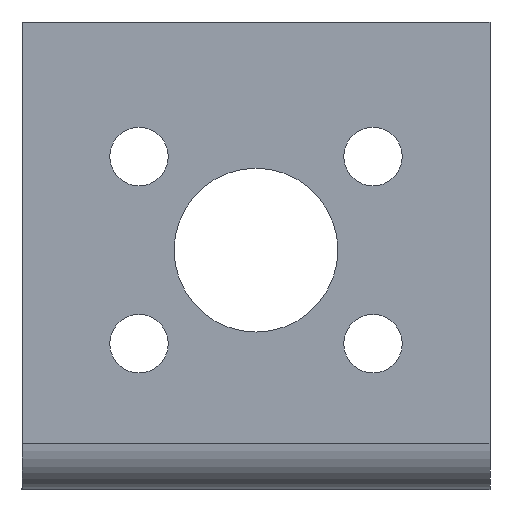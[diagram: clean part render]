
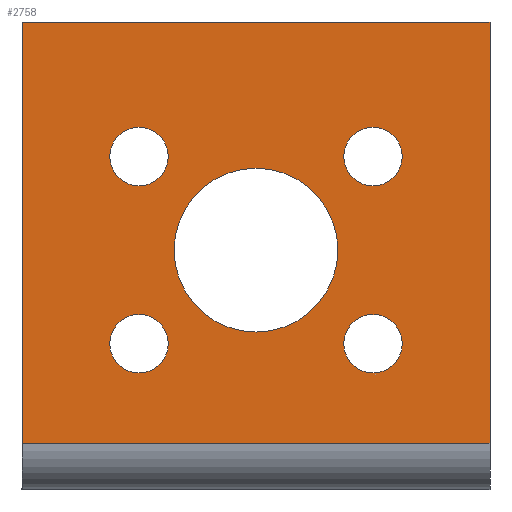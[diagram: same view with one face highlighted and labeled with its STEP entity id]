
A CAD part, front view. The second image highlights one B-rep face of the part: STEP entity #2758.
In plain terms, the highlighted planar face has unit normal (0, -1, 0).
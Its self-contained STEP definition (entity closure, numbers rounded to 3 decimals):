
#15 = DIRECTION ( 'NONE',  ( -1., 0., 0. ) ) ;
#21 = ORIENTED_EDGE ( 'NONE', *, *, #842, .T. ) ;
#179 = AXIS2_PLACEMENT_3D ( 'NONE', #644, #1771, #1553 ) ;
#181 = DIRECTION ( 'NONE',  ( 0., 0., -1. ) ) ;
#206 = VECTOR ( 'NONE', #15, 1000. ) ;
#214 = VERTEX_POINT ( 'NONE', #1264 ) ;
#218 = EDGE_CURVE ( 'NONE', #1273, #904, #2776, .T. ) ;
#242 = FACE_BOUND ( 'NONE', #1844, .T. ) ;
#262 = DIRECTION ( 'NONE',  ( 0., 0., -1. ) ) ;
#358 = EDGE_CURVE ( 'NONE', #1347, #536, #1897, .T. ) ;
#363 = CARTESIAN_POINT ( 'NONE',  ( -10., -200., 8.5 ) ) ;
#384 = FACE_OUTER_BOUND ( 'NONE', #1803, .T. ) ;
#455 = FACE_BOUND ( 'NONE', #1364, .T. ) ;
#461 = CARTESIAN_POINT ( 'NONE',  ( -10., -200., -10. ) ) ;
#468 = AXIS2_PLACEMENT_3D ( 'NONE', #1150, #1397, #1115 ) ;
#490 = DIRECTION ( 'NONE',  ( 0., -1., 0. ) ) ;
#536 = VERTEX_POINT ( 'NONE', #769 ) ;
#541 = VERTEX_POINT ( 'NONE', #2796 ) ;
#562 = AXIS2_PLACEMENT_3D ( 'NONE', #1841, #2741, #2732 ) ;
#583 = AXIS2_PLACEMENT_3D ( 'NONE', #1038, #1741, #595 ) ;
#595 = DIRECTION ( 'NONE',  ( 0., 0., 1. ) ) ;
#630 = CARTESIAN_POINT ( 'NONE',  ( 10., -200., -10. ) ) ;
#644 = CARTESIAN_POINT ( 'NONE',  ( 10., -200., -7.5 ) ) ;
#665 = VECTOR ( 'NONE', #181, 1000. ) ;
#673 = CIRCLE ( 'NONE', #1627, 2.5 ) ;
#743 = LINE ( 'NONE', #2464, #665 ) ;
#766 = ORIENTED_EDGE ( 'NONE', *, *, #2823, .F. ) ;
#769 = CARTESIAN_POINT ( 'NONE',  ( 10., -200., 6. ) ) ;
#795 = EDGE_CURVE ( 'NONE', #536, #1347, #1715, .T. ) ;
#842 = EDGE_CURVE ( 'NONE', #1340, #541, #2452, .T. ) ;
#849 = DIRECTION ( 'NONE',  ( 0., 0., 1. ) ) ;
#853 = AXIS2_PLACEMENT_3D ( 'NONE', #2240, #865, #1574 ) ;
#865 = DIRECTION ( 'NONE',  ( 0., 1., 0. ) ) ;
#872 = CARTESIAN_POINT ( 'NONE',  ( -10., -200., 6. ) ) ;
#880 = AXIS2_PLACEMENT_3D ( 'NONE', #928, #490, #262 ) ;
#884 = ORIENTED_EDGE ( 'NONE', *, *, #795, .T. ) ;
#904 = VERTEX_POINT ( 'NONE', #1594 ) ;
#906 = PLANE ( 'NONE',  #880 ) ;
#912 = DIRECTION ( 'NONE',  ( 0., 1., 0. ) ) ;
#928 = CARTESIAN_POINT ( 'NONE',  ( -20., -200., -20. ) ) ;
#1038 = CARTESIAN_POINT ( 'NONE',  ( -10., -200., -7.5 ) ) ;
#1050 = AXIS2_PLACEMENT_3D ( 'NONE', #2666, #1536, #1967 ) ;
#1056 = LINE ( 'NONE', #2014, #2499 ) ;
#1075 = CARTESIAN_POINT ( 'NONE',  ( 10., -200., 11. ) ) ;
#1078 = VERTEX_POINT ( 'NONE', #1231 ) ;
#1115 = DIRECTION ( 'NONE',  ( 0., 0., 1. ) ) ;
#1143 = CARTESIAN_POINT ( 'NONE',  ( -10., -200., -7.5 ) ) ;
#1150 = CARTESIAN_POINT ( 'NONE',  ( 0., -200., 0.5 ) ) ;
#1187 = DIRECTION ( 'NONE',  ( 0., 1., 0. ) ) ;
#1231 = CARTESIAN_POINT ( 'NONE',  ( 10., -200., -5. ) ) ;
#1250 = CIRCLE ( 'NONE', #179, 2.5 ) ;
#1264 = CARTESIAN_POINT ( 'NONE',  ( -20., -200., -16. ) ) ;
#1268 = VERTEX_POINT ( 'NONE', #630 ) ;
#1273 = VERTEX_POINT ( 'NONE', #872 ) ;
#1276 = EDGE_CURVE ( 'NONE', #1339, #214, #743, .T. ) ;
#1301 = ORIENTED_EDGE ( 'NONE', *, *, #358, .T. ) ;
#1319 = FACE_BOUND ( 'NONE', #1810, .T. ) ;
#1329 = CARTESIAN_POINT ( 'NONE',  ( 0., -200., -6.5 ) ) ;
#1339 = VERTEX_POINT ( 'NONE', #2688 ) ;
#1340 = VERTEX_POINT ( 'NONE', #1329 ) ;
#1347 = VERTEX_POINT ( 'NONE', #1075 ) ;
#1364 = EDGE_LOOP ( 'NONE', ( #2781, #1542 ) ) ;
#1385 = DIRECTION ( 'NONE',  ( 0., 1., 0. ) ) ;
#1397 = DIRECTION ( 'NONE',  ( 0., 1., 0. ) ) ;
#1438 = AXIS2_PLACEMENT_3D ( 'NONE', #1143, #1385, #2044 ) ;
#1450 = ORIENTED_EDGE ( 'NONE', *, *, #1276, .T. ) ;
#1536 = DIRECTION ( 'NONE',  ( 0., 1., 0. ) ) ;
#1542 = ORIENTED_EDGE ( 'NONE', *, *, #1812, .T. ) ;
#1543 = LINE ( 'NONE', #2153, #1725 ) ;
#1548 = DIRECTION ( 'NONE',  ( 0., 0., -1. ) ) ;
#1553 = DIRECTION ( 'NONE',  ( 0., 0., 1. ) ) ;
#1574 = DIRECTION ( 'NONE',  ( 0., 0., 1. ) ) ;
#1594 = CARTESIAN_POINT ( 'NONE',  ( -10., -200., 11. ) ) ;
#1627 = AXIS2_PLACEMENT_3D ( 'NONE', #363, #2856, #2198 ) ;
#1715 = CIRCLE ( 'NONE', #853, 2.5 ) ;
#1725 = VECTOR ( 'NONE', #1951, 1000. ) ;
#1741 = DIRECTION ( 'NONE',  ( 0., 1., 0. ) ) ;
#1771 = DIRECTION ( 'NONE',  ( 0., 1., 0. ) ) ;
#1781 = AXIS2_PLACEMENT_3D ( 'NONE', #2837, #1187, #849 ) ;
#1797 = EDGE_CURVE ( 'NONE', #1848, #1339, #1543, .T. ) ;
#1803 = EDGE_LOOP ( 'NONE', ( #2034, #1450, #766, #2116 ) ) ;
#1810 = EDGE_LOOP ( 'NONE', ( #2517, #21 ) ) ;
#1812 = EDGE_CURVE ( 'NONE', #1268, #1078, #2181, .T. ) ;
#1823 = FACE_BOUND ( 'NONE', #2661, .T. ) ;
#1841 = CARTESIAN_POINT ( 'NONE',  ( 0., -200., 0.5 ) ) ;
#1844 = EDGE_LOOP ( 'NONE', ( #2004, #2659 ) ) ;
#1848 = VERTEX_POINT ( 'NONE', #1958 ) ;
#1866 = ORIENTED_EDGE ( 'NONE', *, *, #218, .T. ) ;
#1897 = CIRCLE ( 'NONE', #2395, 2.5 ) ;
#1899 = EDGE_CURVE ( 'NONE', #904, #1273, #673, .T. ) ;
#1951 = DIRECTION ( 'NONE',  ( -1., 0., 0. ) ) ;
#1953 = EDGE_CURVE ( 'NONE', #1078, #1268, #1250, .T. ) ;
#1958 = CARTESIAN_POINT ( 'NONE',  ( 20., -200., 20. ) ) ;
#1967 = DIRECTION ( 'NONE',  ( 0., 0., 1. ) ) ;
#1986 = EDGE_CURVE ( 'NONE', #1848, #2942, #1056, .T. ) ;
#2004 = ORIENTED_EDGE ( 'NONE', *, *, #2553, .T. ) ;
#2014 = CARTESIAN_POINT ( 'NONE',  ( 20., -200., 0. ) ) ;
#2034 = ORIENTED_EDGE ( 'NONE', *, *, #1797, .T. ) ;
#2044 = DIRECTION ( 'NONE',  ( 0., 0., 1. ) ) ;
#2088 = DIRECTION ( 'NONE',  ( 0., 0., 1. ) ) ;
#2105 = EDGE_CURVE ( 'NONE', #2807, #2888, #2424, .T. ) ;
#2116 = ORIENTED_EDGE ( 'NONE', *, *, #1986, .F. ) ;
#2149 = EDGE_CURVE ( 'NONE', #541, #1340, #2707, .T. ) ;
#2153 = CARTESIAN_POINT ( 'NONE',  ( -20., -200., 20. ) ) ;
#2181 = CIRCLE ( 'NONE', #1050, 2.5 ) ;
#2198 = DIRECTION ( 'NONE',  ( 0., 0., 1. ) ) ;
#2240 = CARTESIAN_POINT ( 'NONE',  ( 10., -200., 8.5 ) ) ;
#2243 = CIRCLE ( 'NONE', #583, 2.5 ) ;
#2305 = CARTESIAN_POINT ( 'NONE',  ( 20., -200., -16. ) ) ;
#2352 = CARTESIAN_POINT ( 'NONE',  ( -10., -200., -5. ) ) ;
#2359 = ORIENTED_EDGE ( 'NONE', *, *, #1899, .T. ) ;
#2395 = AXIS2_PLACEMENT_3D ( 'NONE', #2756, #912, #2088 ) ;
#2424 = CIRCLE ( 'NONE', #1438, 2.5 ) ;
#2450 = EDGE_LOOP ( 'NONE', ( #1301, #884 ) ) ;
#2452 = CIRCLE ( 'NONE', #562, 7. ) ;
#2464 = CARTESIAN_POINT ( 'NONE',  ( -20., -200., 0. ) ) ;
#2499 = VECTOR ( 'NONE', #1548, 1000. ) ;
#2513 = CARTESIAN_POINT ( 'NONE',  ( 0., -200., -16. ) ) ;
#2517 = ORIENTED_EDGE ( 'NONE', *, *, #2149, .T. ) ;
#2553 = EDGE_CURVE ( 'NONE', #2888, #2807, #2243, .T. ) ;
#2646 = FACE_BOUND ( 'NONE', #2450, .T. ) ;
#2659 = ORIENTED_EDGE ( 'NONE', *, *, #2105, .T. ) ;
#2661 = EDGE_LOOP ( 'NONE', ( #2359, #1866 ) ) ;
#2666 = CARTESIAN_POINT ( 'NONE',  ( 10., -200., -7.5 ) ) ;
#2677 = LINE ( 'NONE', #2513, #206 ) ;
#2688 = CARTESIAN_POINT ( 'NONE',  ( -20., -200., 20. ) ) ;
#2707 = CIRCLE ( 'NONE', #468, 7. ) ;
#2732 = DIRECTION ( 'NONE',  ( 0., 0., 1. ) ) ;
#2741 = DIRECTION ( 'NONE',  ( 0., 1., 0. ) ) ;
#2756 = CARTESIAN_POINT ( 'NONE',  ( 10., -200., 8.5 ) ) ;
#2758 = ADVANCED_FACE ( 'NONE', ( #242, #455, #2646, #1319, #1823, #384 ), #906, .T. ) ;
#2776 = CIRCLE ( 'NONE', #1781, 2.5 ) ;
#2781 = ORIENTED_EDGE ( 'NONE', *, *, #1953, .T. ) ;
#2796 = CARTESIAN_POINT ( 'NONE',  ( 0., -200., 7.5 ) ) ;
#2807 = VERTEX_POINT ( 'NONE', #461 ) ;
#2823 = EDGE_CURVE ( 'NONE', #2942, #214, #2677, .T. ) ;
#2837 = CARTESIAN_POINT ( 'NONE',  ( -10., -200., 8.5 ) ) ;
#2856 = DIRECTION ( 'NONE',  ( 0., 1., 0. ) ) ;
#2888 = VERTEX_POINT ( 'NONE', #2352 ) ;
#2942 = VERTEX_POINT ( 'NONE', #2305 ) ;
